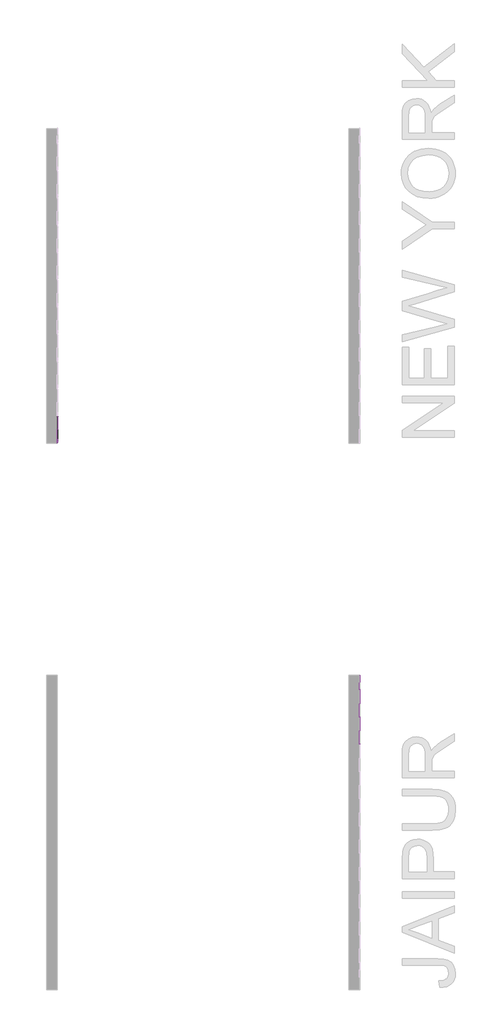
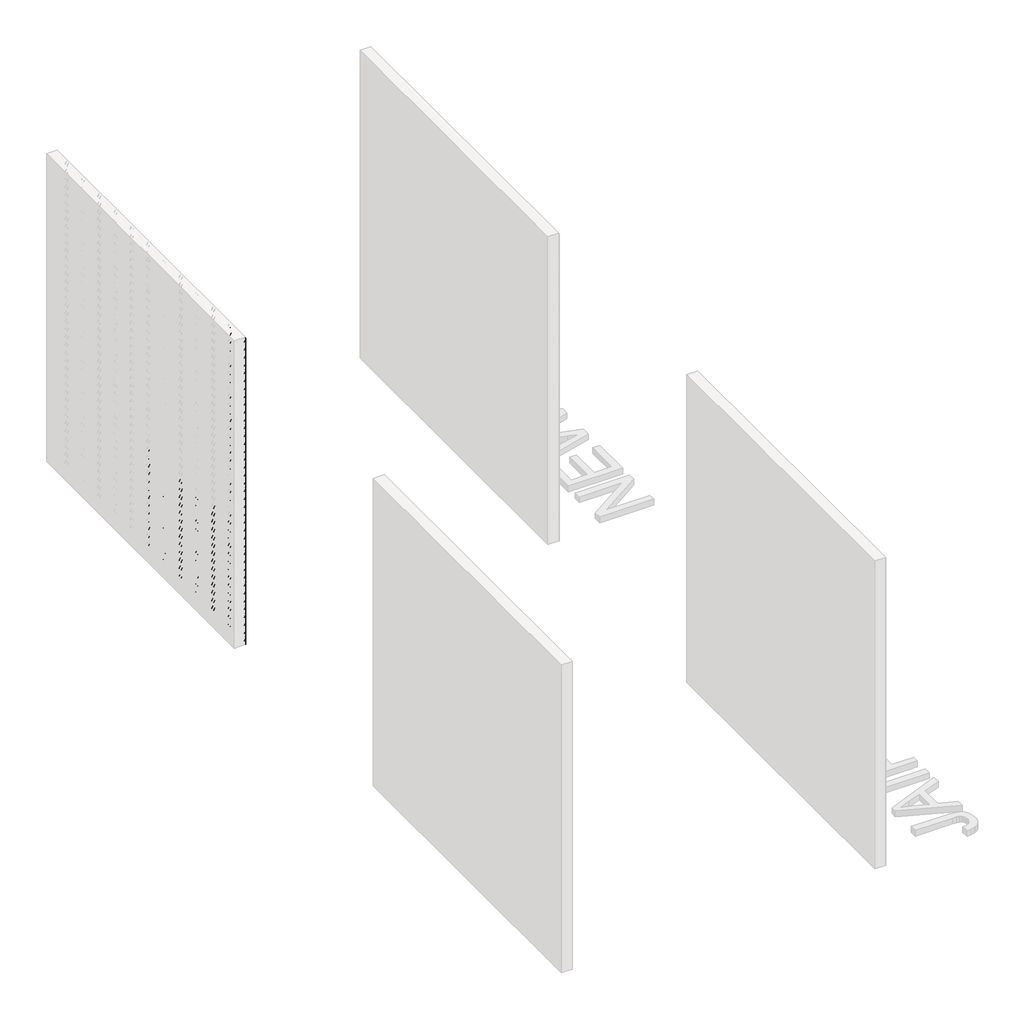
# One storey, part 18 of 45: 146 proxies.
"""IFC4 building model written with IfcOpenShell, lengths in millimetres."""

from ifc_helpers import new_model, si_unit, origin, place, context, project, spatial, transform, mapped, element, save
from components import generic_models_ab0f2c30, generic_models_acd2f2bb, generic_models_1527efce

model = new_model("IFC4")

# Units and contexts
model_context = context("Model", 3, world=origin())
ifc_project = project(units=[si_unit("LENGTHUNIT", "METRE", prefix="MILLI")], contexts=[model_context])

# Site, building, storey
site = spatial("IfcSite", under=ifc_project)
building = spatial("IfcBuilding", under=site)
storey = spatial("IfcBuildingStorey", under=building, Name="PORTOBELLO - SHOWROOM", Elevation=0.0)

# Proxies
placement = place(None, origin())
generic_models_shape = generic_models_ab0f2c30(model_context)
element("IfcBuildingElementProxy", 1, Name="PBSHOP - HORIZONTES JAIPUR 6,5X23 : JAIPUR", ObjectType="PBSHOP - HORIZONTES JAIPUR 6,5X23 : JAIPUR", at=placement, inside=storey, context=model_context, shape_type="MappedRepresentation", body=[
    mapped(generic_models_shape, transform((69111.8826867, 3443.9760255, 1759.5), x_axis=(0.0, 0.0, 1.0), y_axis=(0.0, -1.0, 0.0), z_axis=(1.0, 0.0, 0.0))),
])
element("IfcBuildingElementProxy", 2, Name="PBSHOP - HORIZONTES JAIPUR 6,5X23 : JAIPUR", ObjectType="PBSHOP - HORIZONTES JAIPUR 6,5X23 : JAIPUR", at=placement, inside=storey, context=model_context, shape_type="MappedRepresentation", body=[
    mapped(generic_models_shape, transform((69111.8826867, 3209.9760255, 1828.5), x_axis=(0.0, 0.0, 1.0), y_axis=(0.0, -1.0, 0.0), z_axis=(1.0, 0.0, 0.0))),
])
element("IfcBuildingElementProxy", 3, Name="PBSHOP - HORIZONTES JAIPUR 6,5X23 : JAIPUR", ObjectType="PBSHOP - HORIZONTES JAIPUR 6,5X23 : JAIPUR", at=placement, inside=storey, context=model_context, shape_type="MappedRepresentation", body=[
    mapped(generic_models_shape, transform((69111.8826867, 3443.9760255, 1828.5), x_axis=(0.0, 0.0, 1.0), y_axis=(0.0, -1.0, 0.0), z_axis=(1.0, 0.0, 0.0))),
])
element("IfcBuildingElementProxy", 4, Name="PBSHOP - HORIZONTES JAIPUR 6,5X23 : JAIPUR", ObjectType="PBSHOP - HORIZONTES JAIPUR 6,5X23 : JAIPUR", at=placement, inside=storey, context=model_context, shape_type="MappedRepresentation", body=[
    mapped(generic_models_shape, transform((69111.8826867, 3209.9760255, 1897.5), x_axis=(0.0, 0.0, 1.0), y_axis=(0.0, -1.0, 0.0), z_axis=(1.0, 0.0, 0.0))),
])
element("IfcBuildingElementProxy", 5, Name="PBSHOP - HORIZONTES JAIPUR 6,5X23 : JAIPUR", ObjectType="PBSHOP - HORIZONTES JAIPUR 6,5X23 : JAIPUR", at=placement, inside=storey, context=model_context, shape_type="MappedRepresentation", body=[
    mapped(generic_models_shape, transform((69111.8826867, 3443.9760255, 1897.5), x_axis=(0.0, 0.0, 1.0), y_axis=(0.0, -1.0, 0.0), z_axis=(1.0, 0.0, 0.0))),
])
element("IfcBuildingElementProxy", 6, Name="PBSHOP - HORIZONTES JAIPUR 6,5X23 : JAIPUR", ObjectType="PBSHOP - HORIZONTES JAIPUR 6,5X23 : JAIPUR", at=placement, inside=storey, context=model_context, shape_type="MappedRepresentation", body=[
    mapped(generic_models_shape, transform((69111.8826867, 3209.9760255, 1966.5), x_axis=(0.0, 0.0, 1.0), y_axis=(0.0, -1.0, 0.0), z_axis=(1.0, 0.0, 0.0))),
])
element("IfcBuildingElementProxy", 7, Name="PBSHOP - HORIZONTES JAIPUR 6,5X23 : JAIPUR", ObjectType="PBSHOP - HORIZONTES JAIPUR 6,5X23 : JAIPUR", at=placement, inside=storey, context=model_context, shape_type="MappedRepresentation", body=[
    mapped(generic_models_shape, transform((69111.8826867, 3443.9760255, 1966.5), x_axis=(0.0, 0.0, 1.0), y_axis=(0.0, -1.0, 0.0), z_axis=(1.0, 0.0, 0.0))),
])
element("IfcBuildingElementProxy", 8, Name="PBSHOP - HORIZONTES JAIPUR 6,5X23 : JAIPUR", ObjectType="PBSHOP - HORIZONTES JAIPUR 6,5X23 : JAIPUR", at=placement, inside=storey, context=model_context, shape_type="MappedRepresentation", body=[
    mapped(generic_models_shape, transform((69111.8826867, 3209.9760255, 2035.5), x_axis=(0.0, 0.0, 1.0), y_axis=(0.0, -1.0, 0.0), z_axis=(1.0, 0.0, 0.0))),
])
element("IfcBuildingElementProxy", 9, Name="PBSHOP - HORIZONTES JAIPUR 6,5X23 : JAIPUR", ObjectType="PBSHOP - HORIZONTES JAIPUR 6,5X23 : JAIPUR", at=placement, inside=storey, context=model_context, shape_type="MappedRepresentation", body=[
    mapped(generic_models_shape, transform((69111.8826867, 3443.9760255, 2035.5), x_axis=(0.0, 0.0, 1.0), y_axis=(0.0, -1.0, 0.0), z_axis=(1.0, 0.0, 0.0))),
])
element("IfcBuildingElementProxy", 10, Name="PBSHOP - HORIZONTES JAIPUR 6,5X23 : JAIPUR", ObjectType="PBSHOP - HORIZONTES JAIPUR 6,5X23 : JAIPUR", at=placement, inside=storey, context=model_context, shape_type="MappedRepresentation", body=[
    mapped(generic_models_shape, transform((69111.8826867, 3209.9760255, 2104.5), x_axis=(0.0, 0.0, 1.0), y_axis=(0.0, -1.0, 0.0), z_axis=(1.0, 0.0, 0.0))),
])
element("IfcBuildingElementProxy", 11, Name="PBSHOP - HORIZONTES JAIPUR 6,5X23 : JAIPUR", ObjectType="PBSHOP - HORIZONTES JAIPUR 6,5X23 : JAIPUR", at=placement, inside=storey, context=model_context, shape_type="MappedRepresentation", body=[
    mapped(generic_models_shape, transform((69111.8826867, 3443.9760255, 2104.5), x_axis=(0.0, 0.0, 1.0), y_axis=(0.0, -1.0, 0.0), z_axis=(1.0, 0.0, 0.0))),
])
element("IfcBuildingElementProxy", 12, Name="PBSHOP - HORIZONTES JAIPUR 6,5X23 : JAIPUR", ObjectType="PBSHOP - HORIZONTES JAIPUR 6,5X23 : JAIPUR", at=placement, inside=storey, context=model_context, shape_type="MappedRepresentation", body=[
    mapped(generic_models_shape, transform((69111.8826867, 3209.9760255, 2173.5), x_axis=(0.0, 0.0, 1.0), y_axis=(0.0, -1.0, 0.0), z_axis=(1.0, 0.0, 0.0))),
])
element("IfcBuildingElementProxy", 13, Name="PBSHOP - HORIZONTES JAIPUR 6,5X23 : JAIPUR", ObjectType="PBSHOP - HORIZONTES JAIPUR 6,5X23 : JAIPUR", at=placement, inside=storey, context=model_context, shape_type="MappedRepresentation", body=[
    mapped(generic_models_shape, transform((69111.8826867, 3443.9760255, 2173.5), x_axis=(0.0, 0.0, 1.0), y_axis=(0.0, -1.0, 0.0), z_axis=(1.0, 0.0, 0.0))),
])
element("IfcBuildingElementProxy", 14, Name="PBSHOP - HORIZONTES JAIPUR 6,5X23 : JAIPUR", ObjectType="PBSHOP - HORIZONTES JAIPUR 6,5X23 : JAIPUR", at=placement, inside=storey, context=model_context, shape_type="MappedRepresentation", body=[
    mapped(generic_models_shape, transform((69111.8826867, 3209.9760255, 2242.5), x_axis=(0.0, 0.0, 1.0), y_axis=(0.0, -1.0, 0.0), z_axis=(1.0, 0.0, 0.0))),
])
element("IfcBuildingElementProxy", 15, Name="PBSHOP - HORIZONTES JAIPUR 6,5X23 : JAIPUR", ObjectType="PBSHOP - HORIZONTES JAIPUR 6,5X23 : JAIPUR", at=placement, inside=storey, context=model_context, shape_type="MappedRepresentation", body=[
    mapped(generic_models_shape, transform((69111.8826867, 3443.9760255, 2242.5), x_axis=(0.0, 0.0, 1.0), y_axis=(0.0, -1.0, 0.0), z_axis=(1.0, 0.0, 0.0))),
])
element("IfcBuildingElementProxy", 16, Name="PBSHOP - HORIZONTES JAIPUR 6,5X23 : JAIPUR", ObjectType="PBSHOP - HORIZONTES JAIPUR 6,5X23 : JAIPUR", at=placement, inside=storey, context=model_context, shape_type="MappedRepresentation", body=[
    mapped(generic_models_shape, transform((69111.8826867, 3209.9760255, 2311.5), x_axis=(0.0, 0.0, 1.0), y_axis=(0.0, -1.0, 0.0), z_axis=(1.0, 0.0, 0.0))),
])
element("IfcBuildingElementProxy", 17, Name="PBSHOP - HORIZONTES JAIPUR 6,5X23 : JAIPUR", ObjectType="PBSHOP - HORIZONTES JAIPUR 6,5X23 : JAIPUR", at=placement, inside=storey, context=model_context, shape_type="MappedRepresentation", body=[
    mapped(generic_models_shape, transform((69111.8826867, 3443.9760255, 2311.5), x_axis=(0.0, 0.0, 1.0), y_axis=(0.0, -1.0, 0.0), z_axis=(1.0, 0.0, 0.0))),
])
element("IfcBuildingElementProxy", 18, Name="PBSHOP - HORIZONTES JAIPUR 6,5X23 : JAIPUR", ObjectType="PBSHOP - HORIZONTES JAIPUR 6,5X23 : JAIPUR", at=placement, inside=storey, context=model_context, shape_type="MappedRepresentation", body=[
    mapped(generic_models_shape, transform((69111.8826867, 3209.9760255, 2380.5), x_axis=(0.0, 0.0, 1.0), y_axis=(0.0, -1.0, 0.0), z_axis=(1.0, 0.0, 0.0))),
])
element("IfcBuildingElementProxy", 19, Name="PBSHOP - HORIZONTES JAIPUR 6,5X23 : JAIPUR", ObjectType="PBSHOP - HORIZONTES JAIPUR 6,5X23 : JAIPUR", at=placement, inside=storey, context=model_context, shape_type="MappedRepresentation", body=[
    mapped(generic_models_shape, transform((69111.8826867, 3443.9760255, 2380.5), x_axis=(0.0, 0.0, 1.0), y_axis=(0.0, -1.0, 0.0), z_axis=(1.0, 0.0, 0.0))),
])
element("IfcBuildingElementProxy", 20, Name="PBSHOP - HORIZONTES JAIPUR 6,5X23 : JAIPUR", ObjectType="PBSHOP - HORIZONTES JAIPUR 6,5X23 : JAIPUR", at=placement, inside=storey, context=model_context, shape_type="MappedRepresentation", body=[
    mapped(generic_models_shape, transform((69111.8826867, 3209.9760255, 2449.5), x_axis=(0.0, 0.0, 1.0), y_axis=(0.0, -1.0, 0.0), z_axis=(1.0, 0.0, 0.0))),
])
element("IfcBuildingElementProxy", 21, Name="PBSHOP - HORIZONTES JAIPUR 6,5X23 : JAIPUR", ObjectType="PBSHOP - HORIZONTES JAIPUR 6,5X23 : JAIPUR", at=placement, inside=storey, context=model_context, shape_type="MappedRepresentation", body=[
    mapped(generic_models_shape, transform((69111.8826867, 3443.9760255, 2449.5), x_axis=(0.0, 0.0, 1.0), y_axis=(0.0, -1.0, 0.0), z_axis=(1.0, 0.0, 0.0))),
])
element("IfcBuildingElementProxy", 22, Name="PBSHOP - HORIZONTES JAIPUR 6,5X23 : JAIPUR", ObjectType="PBSHOP - HORIZONTES JAIPUR 6,5X23 : JAIPUR", at=placement, inside=storey, context=model_context, shape_type="MappedRepresentation", body=[
    mapped(generic_models_shape, transform((69111.8826867, 3209.9760255, 2518.5), x_axis=(0.0, 0.0, 1.0), y_axis=(0.0, -1.0, 0.0), z_axis=(1.0, 0.0, 0.0))),
])
element("IfcBuildingElementProxy", 23, Name="PBSHOP - HORIZONTES JAIPUR 6,5X23 : JAIPUR", ObjectType="PBSHOP - HORIZONTES JAIPUR 6,5X23 : JAIPUR", at=placement, inside=storey, context=model_context, shape_type="MappedRepresentation", body=[
    mapped(generic_models_shape, transform((69111.8826867, 3443.9760255, 2518.5), x_axis=(0.0, 0.0, 1.0), y_axis=(0.0, -1.0, 0.0), z_axis=(1.0, 0.0, 0.0))),
])
element("IfcBuildingElementProxy", 24, Name="PBSHOP - HORIZONTES JAIPUR 6,5X23 : JAIPUR", ObjectType="PBSHOP - HORIZONTES JAIPUR 6,5X23 : JAIPUR", at=placement, inside=storey, context=model_context, shape_type="MappedRepresentation", body=[
    mapped(generic_models_shape, transform((69111.8826867, 3209.9760255, 2587.5), x_axis=(0.0, 0.0, 1.0), y_axis=(0.0, -1.0, 0.0), z_axis=(1.0, 0.0, 0.0))),
])
element("IfcBuildingElementProxy", 25, Name="PBSHOP - HORIZONTES JAIPUR 6,5X23 : JAIPUR", ObjectType="PBSHOP - HORIZONTES JAIPUR 6,5X23 : JAIPUR", at=placement, inside=storey, context=model_context, shape_type="MappedRepresentation", body=[
    mapped(generic_models_shape, transform((69111.8826867, 3443.9760255, 2587.5), x_axis=(0.0, 0.0, 1.0), y_axis=(0.0, -1.0, 0.0), z_axis=(1.0, 0.0, 0.0))),
])
element("IfcBuildingElementProxy", 26, Name="PBSHOP - HORIZONTES JAIPUR 6,5X23 : JAIPUR", ObjectType="PBSHOP - HORIZONTES JAIPUR 6,5X23 : JAIPUR", at=placement, inside=storey, context=model_context, shape_type="MappedRepresentation", body=[
    mapped(generic_models_shape, transform((69111.8826867, 3209.9760255, 2656.5), x_axis=(0.0, 0.0, 1.0), y_axis=(0.0, -1.0, 0.0), z_axis=(1.0, 0.0, 0.0))),
])
element("IfcBuildingElementProxy", 27, Name="PBSHOP - HORIZONTES JAIPUR 6,5X23 : JAIPUR", ObjectType="PBSHOP - HORIZONTES JAIPUR 6,5X23 : JAIPUR", at=placement, inside=storey, context=model_context, shape_type="MappedRepresentation", body=[
    mapped(generic_models_shape, transform((69111.8826867, 3443.9760255, 2656.5), x_axis=(0.0, 0.0, 1.0), y_axis=(0.0, -1.0, 0.0), z_axis=(1.0, 0.0, 0.0))),
])
generic_models_2_shape = generic_models_acd2f2bb(model_context)
element("IfcBuildingElementProxy", 28, Name="PBSHOP - HORIZONTES NEW YORK 6,5X23 : NEW YORK DECO", ObjectType="PBSHOP - HORIZONTES NEW YORK 6,5X23 : NEW YORK DECO", at=placement, inside=storey, context=model_context, shape_type="MappedRepresentation", body=[
    mapped(generic_models_2_shape, transform((66511.8826867, 5798.0036359, 34.5), x_axis=(0.0, 0.0, 1.0), y_axis=(0.0, -1.0, 0.0), z_axis=(1.0, 0.0, 0.0))),
])
element("IfcBuildingElementProxy", 29, Name="PBSHOP - HORIZONTES NEW YORK 6,5X23 : NEW YORK DECO", ObjectType="PBSHOP - HORIZONTES NEW YORK 6,5X23 : NEW YORK DECO", at=placement, inside=storey, context=model_context, shape_type="MappedRepresentation", body=[
    mapped(generic_models_2_shape, transform((66511.8826867, 6032.0036359, 34.5), x_axis=(0.0, 0.0, 1.0), y_axis=(0.0, -1.0, 0.0), z_axis=(1.0, 0.0, 0.0))),
])
element("IfcBuildingElementProxy", 30, Name="PBSHOP - HORIZONTES NEW YORK 6,5X23 : NEW YORK DECO", ObjectType="PBSHOP - HORIZONTES NEW YORK 6,5X23 : NEW YORK DECO", at=placement, inside=storey, context=model_context, shape_type="MappedRepresentation", body=[
    mapped(generic_models_2_shape, transform((66511.8826867, 6266.0036359, 34.5), x_axis=(0.0, 0.0, 1.0), y_axis=(0.0, -1.0, 0.0), z_axis=(1.0, 0.0, 0.0))),
])
element("IfcBuildingElementProxy", 31, Name="PBSHOP - HORIZONTES NEW YORK 6,5X23 : NEW YORK DECO", ObjectType="PBSHOP - HORIZONTES NEW YORK 6,5X23 : NEW YORK DECO", at=placement, inside=storey, context=model_context, shape_type="MappedRepresentation", body=[
    mapped(generic_models_2_shape, transform((66511.8826867, 6500.0036359, 34.5), x_axis=(0.0, 0.0, 1.0), y_axis=(0.0, -1.0, 0.0), z_axis=(1.0, 0.0, 0.0))),
])
element("IfcBuildingElementProxy", 32, Name="PBSHOP - HORIZONTES NEW YORK 6,5X23 : NEW YORK DECO", ObjectType="PBSHOP - HORIZONTES NEW YORK 6,5X23 : NEW YORK DECO", at=placement, inside=storey, context=model_context, shape_type="MappedRepresentation", body=[
    mapped(generic_models_2_shape, transform((66511.8826867, 6734.0036359, 34.5), x_axis=(0.0, 0.0, 1.0), y_axis=(0.0, -1.0, 0.0), z_axis=(1.0, 0.0, 0.0))),
])
element("IfcBuildingElementProxy", 33, Name="PBSHOP - HORIZONTES NEW YORK 6,5X23 : NEW YORK DECO", ObjectType="PBSHOP - HORIZONTES NEW YORK 6,5X23 : NEW YORK DECO", at=placement, inside=storey, context=model_context, shape_type="MappedRepresentation", body=[
    mapped(generic_models_2_shape, transform((66511.8826867, 6968.0036359, 34.5), x_axis=(0.0, 0.0, 1.0), y_axis=(0.0, -1.0, 0.0), z_axis=(1.0, 0.0, 0.0))),
])
element("IfcBuildingElementProxy", 34, Name="PBSHOP - HORIZONTES NEW YORK 6,5X23 : NEW YORK DECO", ObjectType="PBSHOP - HORIZONTES NEW YORK 6,5X23 : NEW YORK DECO", at=placement, inside=storey, context=model_context, shape_type="MappedRepresentation", body=[
    mapped(generic_models_2_shape, transform((66511.8826867, 5798.0036359, 103.5), x_axis=(0.0, 0.0, 1.0), y_axis=(0.0, -1.0, 0.0), z_axis=(1.0, 0.0, 0.0))),
])
element("IfcBuildingElementProxy", 35, Name="PBSHOP - HORIZONTES NEW YORK 6,5X23 : NEW YORK DECO", ObjectType="PBSHOP - HORIZONTES NEW YORK 6,5X23 : NEW YORK DECO", at=placement, inside=storey, context=model_context, shape_type="MappedRepresentation", body=[
    mapped(generic_models_2_shape, transform((66511.8826867, 6032.0036359, 103.5), x_axis=(0.0, 0.0, 1.0), y_axis=(0.0, -1.0, 0.0), z_axis=(1.0, 0.0, 0.0))),
])
element("IfcBuildingElementProxy", 36, Name="PBSHOP - HORIZONTES NEW YORK 6,5X23 : NEW YORK DECO", ObjectType="PBSHOP - HORIZONTES NEW YORK 6,5X23 : NEW YORK DECO", at=placement, inside=storey, context=model_context, shape_type="MappedRepresentation", body=[
    mapped(generic_models_2_shape, transform((66511.8826867, 6266.0036359, 103.5), x_axis=(0.0, 0.0, 1.0), y_axis=(0.0, -1.0, 0.0), z_axis=(1.0, 0.0, 0.0))),
])
element("IfcBuildingElementProxy", 37, Name="PBSHOP - HORIZONTES NEW YORK 6,5X23 : NEW YORK DECO", ObjectType="PBSHOP - HORIZONTES NEW YORK 6,5X23 : NEW YORK DECO", at=placement, inside=storey, context=model_context, shape_type="MappedRepresentation", body=[
    mapped(generic_models_2_shape, transform((66511.8826867, 6500.0036359, 103.5), x_axis=(0.0, 0.0, 1.0), y_axis=(0.0, -1.0, 0.0), z_axis=(1.0, 0.0, 0.0))),
])
element("IfcBuildingElementProxy", 38, Name="PBSHOP - HORIZONTES NEW YORK 6,5X23 : NEW YORK DECO", ObjectType="PBSHOP - HORIZONTES NEW YORK 6,5X23 : NEW YORK DECO", at=placement, inside=storey, context=model_context, shape_type="MappedRepresentation", body=[
    mapped(generic_models_2_shape, transform((66511.8826867, 6734.0036359, 103.5), x_axis=(0.0, 0.0, 1.0), y_axis=(0.0, -1.0, 0.0), z_axis=(1.0, 0.0, 0.0))),
])
element("IfcBuildingElementProxy", 39, Name="PBSHOP - HORIZONTES NEW YORK 6,5X23 : NEW YORK DECO", ObjectType="PBSHOP - HORIZONTES NEW YORK 6,5X23 : NEW YORK DECO", at=placement, inside=storey, context=model_context, shape_type="MappedRepresentation", body=[
    mapped(generic_models_2_shape, transform((66511.8826867, 6968.0036359, 103.5), x_axis=(0.0, 0.0, 1.0), y_axis=(0.0, -1.0, 0.0), z_axis=(1.0, 0.0, 0.0))),
])
element("IfcBuildingElementProxy", 40, Name="PBSHOP - HORIZONTES NEW YORK 6,5X23 : NEW YORK DECO", ObjectType="PBSHOP - HORIZONTES NEW YORK 6,5X23 : NEW YORK DECO", at=placement, inside=storey, context=model_context, shape_type="MappedRepresentation", body=[
    mapped(generic_models_2_shape, transform((66511.8826867, 5798.0036359, 172.5), x_axis=(0.0, 0.0, 1.0), y_axis=(0.0, -1.0, 0.0), z_axis=(1.0, 0.0, 0.0))),
])
element("IfcBuildingElementProxy", 41, Name="PBSHOP - HORIZONTES NEW YORK 6,5X23 : NEW YORK DECO", ObjectType="PBSHOP - HORIZONTES NEW YORK 6,5X23 : NEW YORK DECO", at=placement, inside=storey, context=model_context, shape_type="MappedRepresentation", body=[
    mapped(generic_models_2_shape, transform((66511.8826867, 6032.0036359, 172.5), x_axis=(0.0, 0.0, 1.0), y_axis=(0.0, -1.0, 0.0), z_axis=(1.0, 0.0, 0.0))),
])
element("IfcBuildingElementProxy", 42, Name="PBSHOP - HORIZONTES NEW YORK 6,5X23 : NEW YORK DECO", ObjectType="PBSHOP - HORIZONTES NEW YORK 6,5X23 : NEW YORK DECO", at=placement, inside=storey, context=model_context, shape_type="MappedRepresentation", body=[
    mapped(generic_models_2_shape, transform((66511.8826867, 6266.0036359, 172.5), x_axis=(0.0, 0.0, 1.0), y_axis=(0.0, -1.0, 0.0), z_axis=(1.0, 0.0, 0.0))),
])
element("IfcBuildingElementProxy", 43, Name="PBSHOP - HORIZONTES NEW YORK 6,5X23 : NEW YORK DECO", ObjectType="PBSHOP - HORIZONTES NEW YORK 6,5X23 : NEW YORK DECO", at=placement, inside=storey, context=model_context, shape_type="MappedRepresentation", body=[
    mapped(generic_models_2_shape, transform((66511.8826867, 6500.0036359, 172.5), x_axis=(0.0, 0.0, 1.0), y_axis=(0.0, -1.0, 0.0), z_axis=(1.0, 0.0, 0.0))),
])
element("IfcBuildingElementProxy", 44, Name="PBSHOP - HORIZONTES NEW YORK 6,5X23 : NEW YORK DECO", ObjectType="PBSHOP - HORIZONTES NEW YORK 6,5X23 : NEW YORK DECO", at=placement, inside=storey, context=model_context, shape_type="MappedRepresentation", body=[
    mapped(generic_models_2_shape, transform((66511.8826867, 6734.0036359, 172.5), x_axis=(0.0, 0.0, 1.0), y_axis=(0.0, -1.0, 0.0), z_axis=(1.0, 0.0, 0.0))),
])
element("IfcBuildingElementProxy", 45, Name="PBSHOP - HORIZONTES NEW YORK 6,5X23 : NEW YORK DECO", ObjectType="PBSHOP - HORIZONTES NEW YORK 6,5X23 : NEW YORK DECO", at=placement, inside=storey, context=model_context, shape_type="MappedRepresentation", body=[
    mapped(generic_models_2_shape, transform((66511.8826867, 6968.0036359, 172.5), x_axis=(0.0, 0.0, 1.0), y_axis=(0.0, -1.0, 0.0), z_axis=(1.0, 0.0, 0.0))),
])
element("IfcBuildingElementProxy", 46, Name="PBSHOP - HORIZONTES NEW YORK 6,5X23 : NEW YORK DECO", ObjectType="PBSHOP - HORIZONTES NEW YORK 6,5X23 : NEW YORK DECO", at=placement, inside=storey, context=model_context, shape_type="MappedRepresentation", body=[
    mapped(generic_models_2_shape, transform((66511.8826867, 5798.0036359, 241.5), x_axis=(0.0, 0.0, 1.0), y_axis=(0.0, -1.0, 0.0), z_axis=(1.0, 0.0, 0.0))),
])
element("IfcBuildingElementProxy", 47, Name="PBSHOP - HORIZONTES NEW YORK 6,5X23 : NEW YORK DECO", ObjectType="PBSHOP - HORIZONTES NEW YORK 6,5X23 : NEW YORK DECO", at=placement, inside=storey, context=model_context, shape_type="MappedRepresentation", body=[
    mapped(generic_models_2_shape, transform((66511.8826867, 6032.0036359, 241.5), x_axis=(0.0, 0.0, 1.0), y_axis=(0.0, -1.0, 0.0), z_axis=(1.0, 0.0, 0.0))),
])
element("IfcBuildingElementProxy", 48, Name="PBSHOP - HORIZONTES NEW YORK 6,5X23 : NEW YORK DECO", ObjectType="PBSHOP - HORIZONTES NEW YORK 6,5X23 : NEW YORK DECO", at=placement, inside=storey, context=model_context, shape_type="MappedRepresentation", body=[
    mapped(generic_models_2_shape, transform((66511.8826867, 6266.0036359, 241.5), x_axis=(0.0, 0.0, 1.0), y_axis=(0.0, -1.0, 0.0), z_axis=(1.0, 0.0, 0.0))),
])
element("IfcBuildingElementProxy", 49, Name="PBSHOP - HORIZONTES NEW YORK 6,5X23 : NEW YORK DECO", ObjectType="PBSHOP - HORIZONTES NEW YORK 6,5X23 : NEW YORK DECO", at=placement, inside=storey, context=model_context, shape_type="MappedRepresentation", body=[
    mapped(generic_models_2_shape, transform((66511.8826867, 6500.0036359, 241.5), x_axis=(0.0, 0.0, 1.0), y_axis=(0.0, -1.0, 0.0), z_axis=(1.0, 0.0, 0.0))),
])
element("IfcBuildingElementProxy", 50, Name="PBSHOP - HORIZONTES NEW YORK 6,5X23 : NEW YORK DECO", ObjectType="PBSHOP - HORIZONTES NEW YORK 6,5X23 : NEW YORK DECO", at=placement, inside=storey, context=model_context, shape_type="MappedRepresentation", body=[
    mapped(generic_models_2_shape, transform((66511.8826867, 6734.0036359, 241.5), x_axis=(0.0, 0.0, 1.0), y_axis=(0.0, -1.0, 0.0), z_axis=(1.0, 0.0, 0.0))),
])
element("IfcBuildingElementProxy", 51, Name="PBSHOP - HORIZONTES NEW YORK 6,5X23 : NEW YORK DECO", ObjectType="PBSHOP - HORIZONTES NEW YORK 6,5X23 : NEW YORK DECO", at=placement, inside=storey, context=model_context, shape_type="MappedRepresentation", body=[
    mapped(generic_models_2_shape, transform((66511.8826867, 6968.0036359, 241.5), x_axis=(0.0, 0.0, 1.0), y_axis=(0.0, -1.0, 0.0), z_axis=(1.0, 0.0, 0.0))),
])
element("IfcBuildingElementProxy", 52, Name="PBSHOP - HORIZONTES NEW YORK 6,5X23 : NEW YORK DECO", ObjectType="PBSHOP - HORIZONTES NEW YORK 6,5X23 : NEW YORK DECO", at=placement, inside=storey, context=model_context, shape_type="MappedRepresentation", body=[
    mapped(generic_models_2_shape, transform((66511.8826867, 5798.0036359, 310.5), x_axis=(0.0, 0.0, 1.0), y_axis=(0.0, -1.0, 0.0), z_axis=(1.0, 0.0, 0.0))),
])
element("IfcBuildingElementProxy", 53, Name="PBSHOP - HORIZONTES NEW YORK 6,5X23 : NEW YORK DECO", ObjectType="PBSHOP - HORIZONTES NEW YORK 6,5X23 : NEW YORK DECO", at=placement, inside=storey, context=model_context, shape_type="MappedRepresentation", body=[
    mapped(generic_models_2_shape, transform((66511.8826867, 6032.0036359, 310.5), x_axis=(0.0, 0.0, 1.0), y_axis=(0.0, -1.0, 0.0), z_axis=(1.0, 0.0, 0.0))),
])
element("IfcBuildingElementProxy", 54, Name="PBSHOP - HORIZONTES NEW YORK 6,5X23 : NEW YORK DECO", ObjectType="PBSHOP - HORIZONTES NEW YORK 6,5X23 : NEW YORK DECO", at=placement, inside=storey, context=model_context, shape_type="MappedRepresentation", body=[
    mapped(generic_models_2_shape, transform((66511.8826867, 6266.0036359, 310.5), x_axis=(0.0, 0.0, 1.0), y_axis=(0.0, -1.0, 0.0), z_axis=(1.0, 0.0, 0.0))),
])
element("IfcBuildingElementProxy", 55, Name="PBSHOP - HORIZONTES NEW YORK 6,5X23 : NEW YORK DECO", ObjectType="PBSHOP - HORIZONTES NEW YORK 6,5X23 : NEW YORK DECO", at=placement, inside=storey, context=model_context, shape_type="MappedRepresentation", body=[
    mapped(generic_models_2_shape, transform((66511.8826867, 6500.0036359, 310.5), x_axis=(0.0, 0.0, 1.0), y_axis=(0.0, -1.0, 0.0), z_axis=(1.0, 0.0, 0.0))),
])
element("IfcBuildingElementProxy", 56, Name="PBSHOP - HORIZONTES NEW YORK 6,5X23 : NEW YORK DECO", ObjectType="PBSHOP - HORIZONTES NEW YORK 6,5X23 : NEW YORK DECO", at=placement, inside=storey, context=model_context, shape_type="MappedRepresentation", body=[
    mapped(generic_models_2_shape, transform((66511.8826867, 6734.0036359, 310.5), x_axis=(0.0, 0.0, 1.0), y_axis=(0.0, -1.0, 0.0), z_axis=(1.0, 0.0, 0.0))),
])
element("IfcBuildingElementProxy", 57, Name="PBSHOP - HORIZONTES NEW YORK 6,5X23 : NEW YORK DECO", ObjectType="PBSHOP - HORIZONTES NEW YORK 6,5X23 : NEW YORK DECO", at=placement, inside=storey, context=model_context, shape_type="MappedRepresentation", body=[
    mapped(generic_models_2_shape, transform((66511.8826867, 6968.0036359, 310.5), x_axis=(0.0, 0.0, 1.0), y_axis=(0.0, -1.0, 0.0), z_axis=(1.0, 0.0, 0.0))),
])
element("IfcBuildingElementProxy", 58, Name="PBSHOP - HORIZONTES NEW YORK 6,5X23 : NEW YORK DECO", ObjectType="PBSHOP - HORIZONTES NEW YORK 6,5X23 : NEW YORK DECO", at=placement, inside=storey, context=model_context, shape_type="MappedRepresentation", body=[
    mapped(generic_models_2_shape, transform((66511.8826867, 5798.0036359, 379.5), x_axis=(0.0, 0.0, 1.0), y_axis=(0.0, -1.0, 0.0), z_axis=(1.0, 0.0, 0.0))),
])
element("IfcBuildingElementProxy", 59, Name="PBSHOP - HORIZONTES NEW YORK 6,5X23 : NEW YORK DECO", ObjectType="PBSHOP - HORIZONTES NEW YORK 6,5X23 : NEW YORK DECO", at=placement, inside=storey, context=model_context, shape_type="MappedRepresentation", body=[
    mapped(generic_models_2_shape, transform((66511.8826867, 6032.0036359, 379.5), x_axis=(0.0, 0.0, 1.0), y_axis=(0.0, -1.0, 0.0), z_axis=(1.0, 0.0, 0.0))),
])
element("IfcBuildingElementProxy", 60, Name="PBSHOP - HORIZONTES NEW YORK 6,5X23 : NEW YORK DECO", ObjectType="PBSHOP - HORIZONTES NEW YORK 6,5X23 : NEW YORK DECO", at=placement, inside=storey, context=model_context, shape_type="MappedRepresentation", body=[
    mapped(generic_models_2_shape, transform((66511.8826867, 6266.0036359, 379.5), x_axis=(0.0, 0.0, 1.0), y_axis=(0.0, -1.0, 0.0), z_axis=(1.0, 0.0, 0.0))),
])
element("IfcBuildingElementProxy", 61, Name="PBSHOP - HORIZONTES NEW YORK 6,5X23 : NEW YORK DECO", ObjectType="PBSHOP - HORIZONTES NEW YORK 6,5X23 : NEW YORK DECO", at=placement, inside=storey, context=model_context, shape_type="MappedRepresentation", body=[
    mapped(generic_models_2_shape, transform((66511.8826867, 6500.0036359, 379.5), x_axis=(0.0, 0.0, 1.0), y_axis=(0.0, -1.0, 0.0), z_axis=(1.0, 0.0, 0.0))),
])
element("IfcBuildingElementProxy", 62, Name="PBSHOP - HORIZONTES NEW YORK 6,5X23 : NEW YORK DECO", ObjectType="PBSHOP - HORIZONTES NEW YORK 6,5X23 : NEW YORK DECO", at=placement, inside=storey, context=model_context, shape_type="MappedRepresentation", body=[
    mapped(generic_models_2_shape, transform((66511.8826867, 6734.0036359, 379.5), x_axis=(0.0, 0.0, 1.0), y_axis=(0.0, -1.0, 0.0), z_axis=(1.0, 0.0, 0.0))),
])
element("IfcBuildingElementProxy", 63, Name="PBSHOP - HORIZONTES NEW YORK 6,5X23 : NEW YORK DECO", ObjectType="PBSHOP - HORIZONTES NEW YORK 6,5X23 : NEW YORK DECO", at=placement, inside=storey, context=model_context, shape_type="MappedRepresentation", body=[
    mapped(generic_models_2_shape, transform((66511.8826867, 6968.0036359, 379.5), x_axis=(0.0, 0.0, 1.0), y_axis=(0.0, -1.0, 0.0), z_axis=(1.0, 0.0, 0.0))),
])
element("IfcBuildingElementProxy", 64, Name="PBSHOP - HORIZONTES NEW YORK 6,5X23 : NEW YORK DECO", ObjectType="PBSHOP - HORIZONTES NEW YORK 6,5X23 : NEW YORK DECO", at=placement, inside=storey, context=model_context, shape_type="MappedRepresentation", body=[
    mapped(generic_models_2_shape, transform((66511.8826867, 5798.0036359, 448.5), x_axis=(0.0, 0.0, 1.0), y_axis=(0.0, -1.0, 0.0), z_axis=(1.0, 0.0, 0.0))),
])
element("IfcBuildingElementProxy", 65, Name="PBSHOP - HORIZONTES NEW YORK 6,5X23 : NEW YORK DECO", ObjectType="PBSHOP - HORIZONTES NEW YORK 6,5X23 : NEW YORK DECO", at=placement, inside=storey, context=model_context, shape_type="MappedRepresentation", body=[
    mapped(generic_models_2_shape, transform((66511.8826867, 6032.0036359, 448.5), x_axis=(0.0, 0.0, 1.0), y_axis=(0.0, -1.0, 0.0), z_axis=(1.0, 0.0, 0.0))),
])
element("IfcBuildingElementProxy", 66, Name="PBSHOP - HORIZONTES NEW YORK 6,5X23 : NEW YORK DECO", ObjectType="PBSHOP - HORIZONTES NEW YORK 6,5X23 : NEW YORK DECO", at=placement, inside=storey, context=model_context, shape_type="MappedRepresentation", body=[
    mapped(generic_models_2_shape, transform((66511.8826867, 6266.0036359, 448.5), x_axis=(0.0, 0.0, 1.0), y_axis=(0.0, -1.0, 0.0), z_axis=(1.0, 0.0, 0.0))),
])
element("IfcBuildingElementProxy", 67, Name="PBSHOP - HORIZONTES NEW YORK 6,5X23 : NEW YORK DECO", ObjectType="PBSHOP - HORIZONTES NEW YORK 6,5X23 : NEW YORK DECO", at=placement, inside=storey, context=model_context, shape_type="MappedRepresentation", body=[
    mapped(generic_models_2_shape, transform((66511.8826867, 6500.0036359, 448.5), x_axis=(0.0, 0.0, 1.0), y_axis=(0.0, -1.0, 0.0), z_axis=(1.0, 0.0, 0.0))),
])
element("IfcBuildingElementProxy", 68, Name="PBSHOP - HORIZONTES NEW YORK 6,5X23 : NEW YORK DECO", ObjectType="PBSHOP - HORIZONTES NEW YORK 6,5X23 : NEW YORK DECO", at=placement, inside=storey, context=model_context, shape_type="MappedRepresentation", body=[
    mapped(generic_models_2_shape, transform((66511.8826867, 6734.0036359, 448.5), x_axis=(0.0, 0.0, 1.0), y_axis=(0.0, -1.0, 0.0), z_axis=(1.0, 0.0, 0.0))),
])
element("IfcBuildingElementProxy", 69, Name="PBSHOP - HORIZONTES NEW YORK 6,5X23 : NEW YORK DECO", ObjectType="PBSHOP - HORIZONTES NEW YORK 6,5X23 : NEW YORK DECO", at=placement, inside=storey, context=model_context, shape_type="MappedRepresentation", body=[
    mapped(generic_models_2_shape, transform((66511.8826867, 6968.0036359, 448.5), x_axis=(0.0, 0.0, 1.0), y_axis=(0.0, -1.0, 0.0), z_axis=(1.0, 0.0, 0.0))),
])
element("IfcBuildingElementProxy", 70, Name="PBSHOP - HORIZONTES NEW YORK 6,5X23 : NEW YORK DECO", ObjectType="PBSHOP - HORIZONTES NEW YORK 6,5X23 : NEW YORK DECO", at=placement, inside=storey, context=model_context, shape_type="MappedRepresentation", body=[
    mapped(generic_models_2_shape, transform((66511.8826867, 5798.0036359, 517.5), x_axis=(0.0, 0.0, 1.0), y_axis=(0.0, -1.0, 0.0), z_axis=(1.0, 0.0, 0.0))),
])
element("IfcBuildingElementProxy", 71, Name="PBSHOP - HORIZONTES NEW YORK 6,5X23 : NEW YORK DECO", ObjectType="PBSHOP - HORIZONTES NEW YORK 6,5X23 : NEW YORK DECO", at=placement, inside=storey, context=model_context, shape_type="MappedRepresentation", body=[
    mapped(generic_models_2_shape, transform((66511.8826867, 6032.0036359, 517.5), x_axis=(0.0, 0.0, 1.0), y_axis=(0.0, -1.0, 0.0), z_axis=(1.0, 0.0, 0.0))),
])
element("IfcBuildingElementProxy", 72, Name="PBSHOP - HORIZONTES NEW YORK 6,5X23 : NEW YORK DECO", ObjectType="PBSHOP - HORIZONTES NEW YORK 6,5X23 : NEW YORK DECO", at=placement, inside=storey, context=model_context, shape_type="MappedRepresentation", body=[
    mapped(generic_models_2_shape, transform((66511.8826867, 6266.0036359, 517.5), x_axis=(0.0, 0.0, 1.0), y_axis=(0.0, -1.0, 0.0), z_axis=(1.0, 0.0, 0.0))),
])
element("IfcBuildingElementProxy", 73, Name="PBSHOP - HORIZONTES NEW YORK 6,5X23 : NEW YORK DECO", ObjectType="PBSHOP - HORIZONTES NEW YORK 6,5X23 : NEW YORK DECO", at=placement, inside=storey, context=model_context, shape_type="MappedRepresentation", body=[
    mapped(generic_models_2_shape, transform((66511.8826867, 6500.0036359, 517.5), x_axis=(0.0, 0.0, 1.0), y_axis=(0.0, -1.0, 0.0), z_axis=(1.0, 0.0, 0.0))),
])
element("IfcBuildingElementProxy", 74, Name="PBSHOP - HORIZONTES NEW YORK 6,5X23 : NEW YORK DECO", ObjectType="PBSHOP - HORIZONTES NEW YORK 6,5X23 : NEW YORK DECO", at=placement, inside=storey, context=model_context, shape_type="MappedRepresentation", body=[
    mapped(generic_models_2_shape, transform((66511.8826867, 6734.0036359, 517.5), x_axis=(0.0, 0.0, 1.0), y_axis=(0.0, -1.0, 0.0), z_axis=(1.0, 0.0, 0.0))),
])
element("IfcBuildingElementProxy", 75, Name="PBSHOP - HORIZONTES NEW YORK 6,5X23 : NEW YORK DECO", ObjectType="PBSHOP - HORIZONTES NEW YORK 6,5X23 : NEW YORK DECO", at=placement, inside=storey, context=model_context, shape_type="MappedRepresentation", body=[
    mapped(generic_models_2_shape, transform((66511.8826867, 6968.0036359, 517.5), x_axis=(0.0, 0.0, 1.0), y_axis=(0.0, -1.0, 0.0), z_axis=(1.0, 0.0, 0.0))),
])
element("IfcBuildingElementProxy", 76, Name="PBSHOP - HORIZONTES NEW YORK 6,5X23 : NEW YORK DECO", ObjectType="PBSHOP - HORIZONTES NEW YORK 6,5X23 : NEW YORK DECO", at=placement, inside=storey, context=model_context, shape_type="MappedRepresentation", body=[
    mapped(generic_models_2_shape, transform((66511.8826867, 5798.0036359, 586.5), x_axis=(0.0, 0.0, 1.0), y_axis=(0.0, -1.0, 0.0), z_axis=(1.0, 0.0, 0.0))),
])
element("IfcBuildingElementProxy", 77, Name="PBSHOP - HORIZONTES NEW YORK 6,5X23 : NEW YORK DECO", ObjectType="PBSHOP - HORIZONTES NEW YORK 6,5X23 : NEW YORK DECO", at=placement, inside=storey, context=model_context, shape_type="MappedRepresentation", body=[
    mapped(generic_models_2_shape, transform((66511.8826867, 6032.0036359, 586.5), x_axis=(0.0, 0.0, 1.0), y_axis=(0.0, -1.0, 0.0), z_axis=(1.0, 0.0, 0.0))),
])
element("IfcBuildingElementProxy", 78, Name="PBSHOP - HORIZONTES NEW YORK 6,5X23 : NEW YORK DECO", ObjectType="PBSHOP - HORIZONTES NEW YORK 6,5X23 : NEW YORK DECO", at=placement, inside=storey, context=model_context, shape_type="MappedRepresentation", body=[
    mapped(generic_models_2_shape, transform((66511.8826867, 6266.0036359, 586.5), x_axis=(0.0, 0.0, 1.0), y_axis=(0.0, -1.0, 0.0), z_axis=(1.0, 0.0, 0.0))),
])
element("IfcBuildingElementProxy", 79, Name="PBSHOP - HORIZONTES NEW YORK 6,5X23 : NEW YORK DECO", ObjectType="PBSHOP - HORIZONTES NEW YORK 6,5X23 : NEW YORK DECO", at=placement, inside=storey, context=model_context, shape_type="MappedRepresentation", body=[
    mapped(generic_models_2_shape, transform((66511.8826867, 6500.0036359, 586.5), x_axis=(0.0, 0.0, 1.0), y_axis=(0.0, -1.0, 0.0), z_axis=(1.0, 0.0, 0.0))),
])
element("IfcBuildingElementProxy", 80, Name="PBSHOP - HORIZONTES NEW YORK 6,5X23 : NEW YORK DECO", ObjectType="PBSHOP - HORIZONTES NEW YORK 6,5X23 : NEW YORK DECO", at=placement, inside=storey, context=model_context, shape_type="MappedRepresentation", body=[
    mapped(generic_models_2_shape, transform((66511.8826867, 6734.0036359, 586.5), x_axis=(0.0, 0.0, 1.0), y_axis=(0.0, -1.0, 0.0), z_axis=(1.0, 0.0, 0.0))),
])
element("IfcBuildingElementProxy", 81, Name="PBSHOP - HORIZONTES NEW YORK 6,5X23 : NEW YORK DECO", ObjectType="PBSHOP - HORIZONTES NEW YORK 6,5X23 : NEW YORK DECO", at=placement, inside=storey, context=model_context, shape_type="MappedRepresentation", body=[
    mapped(generic_models_2_shape, transform((66511.8826867, 6968.0036359, 586.5), x_axis=(0.0, 0.0, 1.0), y_axis=(0.0, -1.0, 0.0), z_axis=(1.0, 0.0, 0.0))),
])
element("IfcBuildingElementProxy", 82, Name="PBSHOP - HORIZONTES NEW YORK 6,5X23 : NEW YORK DECO", ObjectType="PBSHOP - HORIZONTES NEW YORK 6,5X23 : NEW YORK DECO", at=placement, inside=storey, context=model_context, shape_type="MappedRepresentation", body=[
    mapped(generic_models_2_shape, transform((66511.8826867, 5798.0036359, 655.5), x_axis=(0.0, 0.0, 1.0), y_axis=(0.0, -1.0, 0.0), z_axis=(1.0, 0.0, 0.0))),
])
element("IfcBuildingElementProxy", 83, Name="PBSHOP - HORIZONTES NEW YORK 6,5X23 : NEW YORK DECO", ObjectType="PBSHOP - HORIZONTES NEW YORK 6,5X23 : NEW YORK DECO", at=placement, inside=storey, context=model_context, shape_type="MappedRepresentation", body=[
    mapped(generic_models_2_shape, transform((66511.8826867, 6032.0036359, 655.5), x_axis=(0.0, 0.0, 1.0), y_axis=(0.0, -1.0, 0.0), z_axis=(1.0, 0.0, 0.0))),
])
element("IfcBuildingElementProxy", 84, Name="PBSHOP - HORIZONTES NEW YORK 6,5X23 : NEW YORK DECO", ObjectType="PBSHOP - HORIZONTES NEW YORK 6,5X23 : NEW YORK DECO", at=placement, inside=storey, context=model_context, shape_type="MappedRepresentation", body=[
    mapped(generic_models_2_shape, transform((66511.8826867, 6266.0036359, 655.5), x_axis=(0.0, 0.0, 1.0), y_axis=(0.0, -1.0, 0.0), z_axis=(1.0, 0.0, 0.0))),
])
element("IfcBuildingElementProxy", 85, Name="PBSHOP - HORIZONTES NEW YORK 6,5X23 : NEW YORK DECO", ObjectType="PBSHOP - HORIZONTES NEW YORK 6,5X23 : NEW YORK DECO", at=placement, inside=storey, context=model_context, shape_type="MappedRepresentation", body=[
    mapped(generic_models_2_shape, transform((66511.8826867, 6500.0036359, 655.5), x_axis=(0.0, 0.0, 1.0), y_axis=(0.0, -1.0, 0.0), z_axis=(1.0, 0.0, 0.0))),
])
element("IfcBuildingElementProxy", 86, Name="PBSHOP - HORIZONTES NEW YORK 6,5X23 : NEW YORK DECO", ObjectType="PBSHOP - HORIZONTES NEW YORK 6,5X23 : NEW YORK DECO", at=placement, inside=storey, context=model_context, shape_type="MappedRepresentation", body=[
    mapped(generic_models_2_shape, transform((66511.8826867, 6734.0036359, 655.5), x_axis=(0.0, 0.0, 1.0), y_axis=(0.0, -1.0, 0.0), z_axis=(1.0, 0.0, 0.0))),
])
element("IfcBuildingElementProxy", 87, Name="PBSHOP - HORIZONTES NEW YORK 6,5X23 : NEW YORK DECO", ObjectType="PBSHOP - HORIZONTES NEW YORK 6,5X23 : NEW YORK DECO", at=placement, inside=storey, context=model_context, shape_type="MappedRepresentation", body=[
    mapped(generic_models_2_shape, transform((66511.8826867, 6968.0036359, 655.5), x_axis=(0.0, 0.0, 1.0), y_axis=(0.0, -1.0, 0.0), z_axis=(1.0, 0.0, 0.0))),
])
element("IfcBuildingElementProxy", 88, Name="PBSHOP - HORIZONTES NEW YORK 6,5X23 : NEW YORK DECO", ObjectType="PBSHOP - HORIZONTES NEW YORK 6,5X23 : NEW YORK DECO", at=placement, inside=storey, context=model_context, shape_type="MappedRepresentation", body=[
    mapped(generic_models_2_shape, transform((66511.8826867, 5798.0036359, 724.5), x_axis=(0.0, 0.0, 1.0), y_axis=(0.0, -1.0, 0.0), z_axis=(1.0, 0.0, 0.0))),
])
element("IfcBuildingElementProxy", 89, Name="PBSHOP - HORIZONTES NEW YORK 6,5X23 : NEW YORK DECO", ObjectType="PBSHOP - HORIZONTES NEW YORK 6,5X23 : NEW YORK DECO", at=placement, inside=storey, context=model_context, shape_type="MappedRepresentation", body=[
    mapped(generic_models_2_shape, transform((66511.8826867, 6032.0036359, 724.5), x_axis=(0.0, 0.0, 1.0), y_axis=(0.0, -1.0, 0.0), z_axis=(1.0, 0.0, 0.0))),
])
element("IfcBuildingElementProxy", 90, Name="PBSHOP - HORIZONTES NEW YORK 6,5X23 : NEW YORK DECO", ObjectType="PBSHOP - HORIZONTES NEW YORK 6,5X23 : NEW YORK DECO", at=placement, inside=storey, context=model_context, shape_type="MappedRepresentation", body=[
    mapped(generic_models_2_shape, transform((66511.8826867, 6266.0036359, 724.5), x_axis=(0.0, 0.0, 1.0), y_axis=(0.0, -1.0, 0.0), z_axis=(1.0, 0.0, 0.0))),
])
element("IfcBuildingElementProxy", 91, Name="PBSHOP - HORIZONTES NEW YORK 6,5X23 : NEW YORK DECO", ObjectType="PBSHOP - HORIZONTES NEW YORK 6,5X23 : NEW YORK DECO", at=placement, inside=storey, context=model_context, shape_type="MappedRepresentation", body=[
    mapped(generic_models_2_shape, transform((66511.8826867, 6500.0036359, 724.5), x_axis=(0.0, 0.0, 1.0), y_axis=(0.0, -1.0, 0.0), z_axis=(1.0, 0.0, 0.0))),
])
element("IfcBuildingElementProxy", 92, Name="PBSHOP - HORIZONTES NEW YORK 6,5X23 : NEW YORK DECO", ObjectType="PBSHOP - HORIZONTES NEW YORK 6,5X23 : NEW YORK DECO", at=placement, inside=storey, context=model_context, shape_type="MappedRepresentation", body=[
    mapped(generic_models_2_shape, transform((66511.8826867, 6734.0036359, 724.5), x_axis=(0.0, 0.0, 1.0), y_axis=(0.0, -1.0, 0.0), z_axis=(1.0, 0.0, 0.0))),
])
element("IfcBuildingElementProxy", 93, Name="PBSHOP - HORIZONTES NEW YORK 6,5X23 : NEW YORK DECO", ObjectType="PBSHOP - HORIZONTES NEW YORK 6,5X23 : NEW YORK DECO", at=placement, inside=storey, context=model_context, shape_type="MappedRepresentation", body=[
    mapped(generic_models_2_shape, transform((66511.8826867, 6968.0036359, 724.5), x_axis=(0.0, 0.0, 1.0), y_axis=(0.0, -1.0, 0.0), z_axis=(1.0, 0.0, 0.0))),
])
element("IfcBuildingElementProxy", 94, Name="PBSHOP - HORIZONTES NEW YORK 6,5X23 : NEW YORK DECO", ObjectType="PBSHOP - HORIZONTES NEW YORK 6,5X23 : NEW YORK DECO", at=placement, inside=storey, context=model_context, shape_type="MappedRepresentation", body=[
    mapped(generic_models_2_shape, transform((66511.8826867, 5798.0036359, 793.5), x_axis=(0.0, 0.0, 1.0), y_axis=(0.0, -1.0, 0.0), z_axis=(1.0, 0.0, 0.0))),
])
element("IfcBuildingElementProxy", 95, Name="PBSHOP - HORIZONTES NEW YORK 6,5X23 : NEW YORK DECO", ObjectType="PBSHOP - HORIZONTES NEW YORK 6,5X23 : NEW YORK DECO", at=placement, inside=storey, context=model_context, shape_type="MappedRepresentation", body=[
    mapped(generic_models_2_shape, transform((66511.8826867, 6032.0036359, 793.5), x_axis=(0.0, 0.0, 1.0), y_axis=(0.0, -1.0, 0.0), z_axis=(1.0, 0.0, 0.0))),
])
element("IfcBuildingElementProxy", 96, Name="PBSHOP - HORIZONTES NEW YORK 6,5X23 : NEW YORK DECO", ObjectType="PBSHOP - HORIZONTES NEW YORK 6,5X23 : NEW YORK DECO", at=placement, inside=storey, context=model_context, shape_type="MappedRepresentation", body=[
    mapped(generic_models_2_shape, transform((66511.8826867, 6266.0036359, 793.5), x_axis=(0.0, 0.0, 1.0), y_axis=(0.0, -1.0, 0.0), z_axis=(1.0, 0.0, 0.0))),
])
element("IfcBuildingElementProxy", 97, Name="PBSHOP - HORIZONTES NEW YORK 6,5X23 : NEW YORK DECO", ObjectType="PBSHOP - HORIZONTES NEW YORK 6,5X23 : NEW YORK DECO", at=placement, inside=storey, context=model_context, shape_type="MappedRepresentation", body=[
    mapped(generic_models_2_shape, transform((66511.8826867, 6500.0036359, 793.5), x_axis=(0.0, 0.0, 1.0), y_axis=(0.0, -1.0, 0.0), z_axis=(1.0, 0.0, 0.0))),
])
element("IfcBuildingElementProxy", 98, Name="PBSHOP - HORIZONTES NEW YORK 6,5X23 : NEW YORK DECO", ObjectType="PBSHOP - HORIZONTES NEW YORK 6,5X23 : NEW YORK DECO", at=placement, inside=storey, context=model_context, shape_type="MappedRepresentation", body=[
    mapped(generic_models_2_shape, transform((66511.8826867, 6734.0036359, 793.5), x_axis=(0.0, 0.0, 1.0), y_axis=(0.0, -1.0, 0.0), z_axis=(1.0, 0.0, 0.0))),
])
element("IfcBuildingElementProxy", 99, Name="PBSHOP - HORIZONTES NEW YORK 6,5X23 : NEW YORK DECO", ObjectType="PBSHOP - HORIZONTES NEW YORK 6,5X23 : NEW YORK DECO", at=placement, inside=storey, context=model_context, shape_type="MappedRepresentation", body=[
    mapped(generic_models_2_shape, transform((66511.8826867, 6968.0036359, 793.5), x_axis=(0.0, 0.0, 1.0), y_axis=(0.0, -1.0, 0.0), z_axis=(1.0, 0.0, 0.0))),
])
element("IfcBuildingElementProxy", 100, Name="PBSHOP - HORIZONTES NEW YORK 6,5X23 : NEW YORK DECO", ObjectType="PBSHOP - HORIZONTES NEW YORK 6,5X23 : NEW YORK DECO", at=placement, inside=storey, context=model_context, shape_type="MappedRepresentation", body=[
    mapped(generic_models_2_shape, transform((66511.8826867, 5798.0036359, 862.5), x_axis=(0.0, 0.0, 1.0), y_axis=(0.0, -1.0, 0.0), z_axis=(1.0, 0.0, 0.0))),
])
element("IfcBuildingElementProxy", 101, Name="PBSHOP - HORIZONTES NEW YORK 6,5X23 : NEW YORK DECO", ObjectType="PBSHOP - HORIZONTES NEW YORK 6,5X23 : NEW YORK DECO", at=placement, inside=storey, context=model_context, shape_type="MappedRepresentation", body=[
    mapped(generic_models_2_shape, transform((66511.8826867, 6032.0036359, 862.5), x_axis=(0.0, 0.0, 1.0), y_axis=(0.0, -1.0, 0.0), z_axis=(1.0, 0.0, 0.0))),
])
element("IfcBuildingElementProxy", 102, Name="PBSHOP - HORIZONTES NEW YORK 6,5X23 : NEW YORK DECO", ObjectType="PBSHOP - HORIZONTES NEW YORK 6,5X23 : NEW YORK DECO", at=placement, inside=storey, context=model_context, shape_type="MappedRepresentation", body=[
    mapped(generic_models_2_shape, transform((66511.8826867, 6266.0036359, 862.5), x_axis=(0.0, 0.0, 1.0), y_axis=(0.0, -1.0, 0.0), z_axis=(1.0, 0.0, 0.0))),
])
element("IfcBuildingElementProxy", 103, Name="PBSHOP - HORIZONTES NEW YORK 6,5X23 : NEW YORK DECO", ObjectType="PBSHOP - HORIZONTES NEW YORK 6,5X23 : NEW YORK DECO", at=placement, inside=storey, context=model_context, shape_type="MappedRepresentation", body=[
    mapped(generic_models_2_shape, transform((66511.8826867, 6500.0036359, 862.5), x_axis=(0.0, 0.0, 1.0), y_axis=(0.0, -1.0, 0.0), z_axis=(1.0, 0.0, 0.0))),
])
element("IfcBuildingElementProxy", 104, Name="PBSHOP - HORIZONTES NEW YORK 6,5X23 : NEW YORK DECO", ObjectType="PBSHOP - HORIZONTES NEW YORK 6,5X23 : NEW YORK DECO", at=placement, inside=storey, context=model_context, shape_type="MappedRepresentation", body=[
    mapped(generic_models_2_shape, transform((66511.8826867, 6734.0036359, 862.5), x_axis=(0.0, 0.0, 1.0), y_axis=(0.0, -1.0, 0.0), z_axis=(1.0, 0.0, 0.0))),
])
element("IfcBuildingElementProxy", 105, Name="PBSHOP - HORIZONTES NEW YORK 6,5X23 : NEW YORK DECO", ObjectType="PBSHOP - HORIZONTES NEW YORK 6,5X23 : NEW YORK DECO", at=placement, inside=storey, context=model_context, shape_type="MappedRepresentation", body=[
    mapped(generic_models_2_shape, transform((66511.8826867, 6968.0036359, 862.5), x_axis=(0.0, 0.0, 1.0), y_axis=(0.0, -1.0, 0.0), z_axis=(1.0, 0.0, 0.0))),
])
element("IfcBuildingElementProxy", 106, Name="PBSHOP - HORIZONTES NEW YORK 6,5X23 : NEW YORK DECO", ObjectType="PBSHOP - HORIZONTES NEW YORK 6,5X23 : NEW YORK DECO", at=placement, inside=storey, context=model_context, shape_type="MappedRepresentation", body=[
    mapped(generic_models_2_shape, transform((66511.8826867, 5798.0036359, 931.5), x_axis=(0.0, 0.0, 1.0), y_axis=(0.0, -1.0, 0.0), z_axis=(1.0, 0.0, 0.0))),
])
element("IfcBuildingElementProxy", 107, Name="PBSHOP - HORIZONTES NEW YORK 6,5X23 : NEW YORK DECO", ObjectType="PBSHOP - HORIZONTES NEW YORK 6,5X23 : NEW YORK DECO", at=placement, inside=storey, context=model_context, shape_type="MappedRepresentation", body=[
    mapped(generic_models_2_shape, transform((66511.8826867, 6032.0036359, 931.5), x_axis=(0.0, 0.0, 1.0), y_axis=(0.0, -1.0, 0.0), z_axis=(1.0, 0.0, 0.0))),
])
element("IfcBuildingElementProxy", 108, Name="PBSHOP - HORIZONTES NEW YORK 6,5X23 : NEW YORK DECO", ObjectType="PBSHOP - HORIZONTES NEW YORK 6,5X23 : NEW YORK DECO", at=placement, inside=storey, context=model_context, shape_type="MappedRepresentation", body=[
    mapped(generic_models_2_shape, transform((66511.8826867, 5798.0036359, 1000.5), x_axis=(0.0, 0.0, 1.0), y_axis=(0.0, -1.0, 0.0), z_axis=(1.0, 0.0, 0.0))),
])
element("IfcBuildingElementProxy", 109, Name="PBSHOP - HORIZONTES NEW YORK 6,5X23 : NEW YORK DECO", ObjectType="PBSHOP - HORIZONTES NEW YORK 6,5X23 : NEW YORK DECO", at=placement, inside=storey, context=model_context, shape_type="MappedRepresentation", body=[
    mapped(generic_models_2_shape, transform((66511.8826867, 5798.0036359, 1069.5), x_axis=(0.0, 0.0, 1.0), y_axis=(0.0, -1.0, 0.0), z_axis=(1.0, 0.0, 0.0))),
])
element("IfcBuildingElementProxy", 110, Name="PBSHOP - HORIZONTES NEW YORK 6,5X23 : NEW YORK DECO", ObjectType="PBSHOP - HORIZONTES NEW YORK 6,5X23 : NEW YORK DECO", at=placement, inside=storey, context=model_context, shape_type="MappedRepresentation", body=[
    mapped(generic_models_2_shape, transform((66511.8826867, 5798.0036359, 1138.5), x_axis=(0.0, 0.0, 1.0), y_axis=(0.0, -1.0, 0.0), z_axis=(1.0, 0.0, 0.0))),
])
element("IfcBuildingElementProxy", 111, Name="PBSHOP - HORIZONTES NEW YORK 6,5X23 : NEW YORK DECO", ObjectType="PBSHOP - HORIZONTES NEW YORK 6,5X23 : NEW YORK DECO", at=placement, inside=storey, context=model_context, shape_type="MappedRepresentation", body=[
    mapped(generic_models_2_shape, transform((66511.8826867, 5798.0036359, 1207.5), x_axis=(0.0, 0.0, 1.0), y_axis=(0.0, -1.0, 0.0), z_axis=(1.0, 0.0, 0.0))),
])
element("IfcBuildingElementProxy", 112, Name="PBSHOP - HORIZONTES NEW YORK 6,5X23 : NEW YORK DECO", ObjectType="PBSHOP - HORIZONTES NEW YORK 6,5X23 : NEW YORK DECO", at=placement, inside=storey, context=model_context, shape_type="MappedRepresentation", body=[
    mapped(generic_models_2_shape, transform((66511.8826867, 5798.0036359, 1276.5), x_axis=(0.0, 0.0, 1.0), y_axis=(0.0, -1.0, 0.0), z_axis=(1.0, 0.0, 0.0))),
])
element("IfcBuildingElementProxy", 113, Name="PBSHOP - HORIZONTES NEW YORK 6,5X23 : NEW YORK DECO", ObjectType="PBSHOP - HORIZONTES NEW YORK 6,5X23 : NEW YORK DECO", at=placement, inside=storey, context=model_context, shape_type="MappedRepresentation", body=[
    mapped(generic_models_2_shape, transform((66511.8826867, 5798.0036359, 1345.5), x_axis=(0.0, 0.0, 1.0), y_axis=(0.0, -1.0, 0.0), z_axis=(1.0, 0.0, 0.0))),
])
element("IfcBuildingElementProxy", 114, Name="PBSHOP - HORIZONTES NEW YORK 6,5X23 : NEW YORK DECO", ObjectType="PBSHOP - HORIZONTES NEW YORK 6,5X23 : NEW YORK DECO", at=placement, inside=storey, context=model_context, shape_type="MappedRepresentation", body=[
    mapped(generic_models_2_shape, transform((66511.8826867, 5798.0036359, 1414.5), x_axis=(0.0, 0.0, 1.0), y_axis=(0.0, -1.0, 0.0), z_axis=(1.0, 0.0, 0.0))),
])
element("IfcBuildingElementProxy", 115, Name="PBSHOP - HORIZONTES NEW YORK 6,5X23 : NEW YORK DECO", ObjectType="PBSHOP - HORIZONTES NEW YORK 6,5X23 : NEW YORK DECO", at=placement, inside=storey, context=model_context, shape_type="MappedRepresentation", body=[
    mapped(generic_models_2_shape, transform((66511.8826867, 5798.0036359, 1483.5), x_axis=(0.0, 0.0, 1.0), y_axis=(0.0, -1.0, 0.0), z_axis=(1.0, 0.0, 0.0))),
])
element("IfcBuildingElementProxy", 116, Name="PBSHOP - HORIZONTES NEW YORK 6,5X23 : NEW YORK DECO", ObjectType="PBSHOP - HORIZONTES NEW YORK 6,5X23 : NEW YORK DECO", at=placement, inside=storey, context=model_context, shape_type="MappedRepresentation", body=[
    mapped(generic_models_2_shape, transform((66511.8826867, 5798.0036359, 1552.5), x_axis=(0.0, 0.0, 1.0), y_axis=(0.0, -1.0, 0.0), z_axis=(1.0, 0.0, 0.0))),
])
element("IfcBuildingElementProxy", 117, Name="PBSHOP - HORIZONTES NEW YORK 6,5X23 : NEW YORK DECO", ObjectType="PBSHOP - HORIZONTES NEW YORK 6,5X23 : NEW YORK DECO", at=placement, inside=storey, context=model_context, shape_type="MappedRepresentation", body=[
    mapped(generic_models_2_shape, transform((66511.8826867, 5798.0036359, 1621.5), x_axis=(0.0, 0.0, 1.0), y_axis=(0.0, -1.0, 0.0), z_axis=(1.0, 0.0, 0.0))),
])
element("IfcBuildingElementProxy", 118, Name="PBSHOP - HORIZONTES NEW YORK 6,5X23 : NEW YORK DECO", ObjectType="PBSHOP - HORIZONTES NEW YORK 6,5X23 : NEW YORK DECO", at=placement, inside=storey, context=model_context, shape_type="MappedRepresentation", body=[
    mapped(generic_models_2_shape, transform((66511.8826867, 5798.0036359, 1690.5), x_axis=(0.0, 0.0, 1.0), y_axis=(0.0, -1.0, 0.0), z_axis=(1.0, 0.0, 0.0))),
])
element("IfcBuildingElementProxy", 119, Name="PBSHOP - HORIZONTES NEW YORK 6,5X23 : NEW YORK DECO", ObjectType="PBSHOP - HORIZONTES NEW YORK 6,5X23 : NEW YORK DECO", at=placement, inside=storey, context=model_context, shape_type="MappedRepresentation", body=[
    mapped(generic_models_2_shape, transform((66511.8826867, 5798.0036359, 1759.5), x_axis=(0.0, 0.0, 1.0), y_axis=(0.0, -1.0, 0.0), z_axis=(1.0, 0.0, 0.0))),
])
element("IfcBuildingElementProxy", 120, Name="PBSHOP - HORIZONTES NEW YORK 6,5X23 : NEW YORK DECO", ObjectType="PBSHOP - HORIZONTES NEW YORK 6,5X23 : NEW YORK DECO", at=placement, inside=storey, context=model_context, shape_type="MappedRepresentation", body=[
    mapped(generic_models_2_shape, transform((66511.8826867, 5798.0036359, 1828.5), x_axis=(0.0, 0.0, 1.0), y_axis=(0.0, -1.0, 0.0), z_axis=(1.0, 0.0, 0.0))),
])
element("IfcBuildingElementProxy", 121, Name="PBSHOP - HORIZONTES NEW YORK 6,5X23 : NEW YORK DECO", ObjectType="PBSHOP - HORIZONTES NEW YORK 6,5X23 : NEW YORK DECO", at=placement, inside=storey, context=model_context, shape_type="MappedRepresentation", body=[
    mapped(generic_models_2_shape, transform((66511.8826867, 5798.0036359, 1897.5), x_axis=(0.0, 0.0, 1.0), y_axis=(0.0, -1.0, 0.0), z_axis=(1.0, 0.0, 0.0))),
])
element("IfcBuildingElementProxy", 122, Name="PBSHOP - HORIZONTES NEW YORK 6,5X23 : NEW YORK DECO", ObjectType="PBSHOP - HORIZONTES NEW YORK 6,5X23 : NEW YORK DECO", at=placement, inside=storey, context=model_context, shape_type="MappedRepresentation", body=[
    mapped(generic_models_2_shape, transform((66511.8826867, 5798.0036359, 1966.5), x_axis=(0.0, 0.0, 1.0), y_axis=(0.0, -1.0, 0.0), z_axis=(1.0, 0.0, 0.0))),
])
element("IfcBuildingElementProxy", 123, Name="PBSHOP - HORIZONTES NEW YORK 6,5X23 : NEW YORK DECO", ObjectType="PBSHOP - HORIZONTES NEW YORK 6,5X23 : NEW YORK DECO", at=placement, inside=storey, context=model_context, shape_type="MappedRepresentation", body=[
    mapped(generic_models_2_shape, transform((66511.8826867, 5798.0036359, 2035.5), x_axis=(0.0, 0.0, 1.0), y_axis=(0.0, -1.0, 0.0), z_axis=(1.0, 0.0, 0.0))),
])
element("IfcBuildingElementProxy", 124, Name="PBSHOP - HORIZONTES NEW YORK 6,5X23 : NEW YORK DECO", ObjectType="PBSHOP - HORIZONTES NEW YORK 6,5X23 : NEW YORK DECO", at=placement, inside=storey, context=model_context, shape_type="MappedRepresentation", body=[
    mapped(generic_models_2_shape, transform((66511.8826867, 5798.0036359, 2104.5), x_axis=(0.0, 0.0, 1.0), y_axis=(0.0, -1.0, 0.0), z_axis=(1.0, 0.0, 0.0))),
])
element("IfcBuildingElementProxy", 125, Name="PBSHOP - HORIZONTES NEW YORK 6,5X23 : NEW YORK DECO", ObjectType="PBSHOP - HORIZONTES NEW YORK 6,5X23 : NEW YORK DECO", at=placement, inside=storey, context=model_context, shape_type="MappedRepresentation", body=[
    mapped(generic_models_2_shape, transform((66511.8826867, 5798.0036359, 2173.5), x_axis=(0.0, 0.0, 1.0), y_axis=(0.0, -1.0, 0.0), z_axis=(1.0, 0.0, 0.0))),
])
element("IfcBuildingElementProxy", 126, Name="PBSHOP - HORIZONTES NEW YORK 6,5X23 : NEW YORK DECO", ObjectType="PBSHOP - HORIZONTES NEW YORK 6,5X23 : NEW YORK DECO", at=placement, inside=storey, context=model_context, shape_type="MappedRepresentation", body=[
    mapped(generic_models_2_shape, transform((66511.8826867, 5798.0036359, 2242.5), x_axis=(0.0, 0.0, 1.0), y_axis=(0.0, -1.0, 0.0), z_axis=(1.0, 0.0, 0.0))),
])
element("IfcBuildingElementProxy", 127, Name="PBSHOP - HORIZONTES NEW YORK 6,5X23 : NEW YORK DECO", ObjectType="PBSHOP - HORIZONTES NEW YORK 6,5X23 : NEW YORK DECO", at=placement, inside=storey, context=model_context, shape_type="MappedRepresentation", body=[
    mapped(generic_models_2_shape, transform((66511.8826867, 5798.0036359, 2311.5), x_axis=(0.0, 0.0, 1.0), y_axis=(0.0, -1.0, 0.0), z_axis=(1.0, 0.0, 0.0))),
])
element("IfcBuildingElementProxy", 128, Name="PBSHOP - HORIZONTES NEW YORK 6,5X23 : NEW YORK DECO", ObjectType="PBSHOP - HORIZONTES NEW YORK 6,5X23 : NEW YORK DECO", at=placement, inside=storey, context=model_context, shape_type="MappedRepresentation", body=[
    mapped(generic_models_2_shape, transform((66511.8826867, 5798.0036359, 2380.5), x_axis=(0.0, 0.0, 1.0), y_axis=(0.0, -1.0, 0.0), z_axis=(1.0, 0.0, 0.0))),
])
element("IfcBuildingElementProxy", 129, Name="PBSHOP - HORIZONTES NEW YORK 6,5X23 : NEW YORK DECO", ObjectType="PBSHOP - HORIZONTES NEW YORK 6,5X23 : NEW YORK DECO", at=placement, inside=storey, context=model_context, shape_type="MappedRepresentation", body=[
    mapped(generic_models_2_shape, transform((66511.8826867, 5798.0036359, 2449.5), x_axis=(0.0, 0.0, 1.0), y_axis=(0.0, -1.0, 0.0), z_axis=(1.0, 0.0, 0.0))),
])
element("IfcBuildingElementProxy", 130, Name="PBSHOP - HORIZONTES NEW YORK 6,5X23 : NEW YORK DECO", ObjectType="PBSHOP - HORIZONTES NEW YORK 6,5X23 : NEW YORK DECO", at=placement, inside=storey, context=model_context, shape_type="MappedRepresentation", body=[
    mapped(generic_models_2_shape, transform((66511.8826867, 5798.0036359, 2518.5), x_axis=(0.0, 0.0, 1.0), y_axis=(0.0, -1.0, 0.0), z_axis=(1.0, 0.0, 0.0))),
])
element("IfcBuildingElementProxy", 131, Name="PBSHOP - HORIZONTES NEW YORK 6,5X23 : NEW YORK DECO", ObjectType="PBSHOP - HORIZONTES NEW YORK 6,5X23 : NEW YORK DECO", at=placement, inside=storey, context=model_context, shape_type="MappedRepresentation", body=[
    mapped(generic_models_2_shape, transform((66511.8826867, 5798.0036359, 2587.5), x_axis=(0.0, 0.0, 1.0), y_axis=(0.0, -1.0, 0.0), z_axis=(1.0, 0.0, 0.0))),
])
element("IfcBuildingElementProxy", 132, Name="PBSHOP - HORIZONTES NEW YORK 6,5X23 : NEW YORK DECO", ObjectType="PBSHOP - HORIZONTES NEW YORK 6,5X23 : NEW YORK DECO", at=placement, inside=storey, context=model_context, shape_type="MappedRepresentation", body=[
    mapped(generic_models_2_shape, transform((66511.8826867, 5798.0036359, 2656.5), x_axis=(0.0, 0.0, 1.0), y_axis=(0.0, -1.0, 0.0), z_axis=(1.0, 0.0, 0.0))),
])
generic_models_3_shape = generic_models_1527efce(model_context)
element("IfcBuildingElementProxy", 133, Name="PBSHOP - HORIZONTES JAIPUR 6,5X23 : JAIPUR", ObjectType="PBSHOP - HORIZONTES JAIPUR 6,5X23 : JAIPUR", at=placement, inside=storey, context=model_context, shape_type="MappedRepresentation", body=[
    mapped(generic_models_3_shape, transform((69111.8826867, 3677.9760255, 1759.5), x_axis=(0.0, 0.0, 1.0), y_axis=(0.0, -1.0, 0.0), z_axis=(1.0, 0.0, 0.0))),
])
element("IfcBuildingElementProxy", 134, Name="PBSHOP - HORIZONTES JAIPUR 6,5X23 : JAIPUR", ObjectType="PBSHOP - HORIZONTES JAIPUR 6,5X23 : JAIPUR", at=placement, inside=storey, context=model_context, shape_type="MappedRepresentation", body=[
    mapped(generic_models_3_shape, transform((69111.8826867, 3677.9760255, 1828.5), x_axis=(0.0, 0.0, 1.0), y_axis=(0.0, -1.0, 0.0), z_axis=(1.0, 0.0, 0.0))),
])
element("IfcBuildingElementProxy", 135, Name="PBSHOP - HORIZONTES JAIPUR 6,5X23 : JAIPUR", ObjectType="PBSHOP - HORIZONTES JAIPUR 6,5X23 : JAIPUR", at=placement, inside=storey, context=model_context, shape_type="MappedRepresentation", body=[
    mapped(generic_models_3_shape, transform((69111.8826867, 3677.9760255, 1897.5), x_axis=(0.0, 0.0, 1.0), y_axis=(0.0, -1.0, 0.0), z_axis=(1.0, 0.0, 0.0))),
])
element("IfcBuildingElementProxy", 136, Name="PBSHOP - HORIZONTES JAIPUR 6,5X23 : JAIPUR", ObjectType="PBSHOP - HORIZONTES JAIPUR 6,5X23 : JAIPUR", at=placement, inside=storey, context=model_context, shape_type="MappedRepresentation", body=[
    mapped(generic_models_3_shape, transform((69111.8826867, 3677.9760255, 1966.5), x_axis=(0.0, 0.0, 1.0), y_axis=(0.0, -1.0, 0.0), z_axis=(1.0, 0.0, 0.0))),
])
element("IfcBuildingElementProxy", 137, Name="PBSHOP - HORIZONTES JAIPUR 6,5X23 : JAIPUR", ObjectType="PBSHOP - HORIZONTES JAIPUR 6,5X23 : JAIPUR", at=placement, inside=storey, context=model_context, shape_type="MappedRepresentation", body=[
    mapped(generic_models_3_shape, transform((69111.8826867, 3677.9760255, 2035.5), x_axis=(0.0, 0.0, 1.0), y_axis=(0.0, -1.0, 0.0), z_axis=(1.0, 0.0, 0.0))),
])
element("IfcBuildingElementProxy", 138, Name="PBSHOP - HORIZONTES JAIPUR 6,5X23 : JAIPUR", ObjectType="PBSHOP - HORIZONTES JAIPUR 6,5X23 : JAIPUR", at=placement, inside=storey, context=model_context, shape_type="MappedRepresentation", body=[
    mapped(generic_models_3_shape, transform((69111.8826867, 3677.9760255, 2104.5), x_axis=(0.0, 0.0, 1.0), y_axis=(0.0, -1.0, 0.0), z_axis=(1.0, 0.0, 0.0))),
])
element("IfcBuildingElementProxy", 139, Name="PBSHOP - HORIZONTES JAIPUR 6,5X23 : JAIPUR", ObjectType="PBSHOP - HORIZONTES JAIPUR 6,5X23 : JAIPUR", at=placement, inside=storey, context=model_context, shape_type="MappedRepresentation", body=[
    mapped(generic_models_3_shape, transform((69111.8826867, 3677.9760255, 2173.5), x_axis=(0.0, 0.0, 1.0), y_axis=(0.0, -1.0, 0.0), z_axis=(1.0, 0.0, 0.0))),
])
element("IfcBuildingElementProxy", 140, Name="PBSHOP - HORIZONTES JAIPUR 6,5X23 : JAIPUR", ObjectType="PBSHOP - HORIZONTES JAIPUR 6,5X23 : JAIPUR", at=placement, inside=storey, context=model_context, shape_type="MappedRepresentation", body=[
    mapped(generic_models_3_shape, transform((69111.8826867, 3677.9760255, 2242.5), x_axis=(0.0, 0.0, 1.0), y_axis=(0.0, -1.0, 0.0), z_axis=(1.0, 0.0, 0.0))),
])
element("IfcBuildingElementProxy", 141, Name="PBSHOP - HORIZONTES JAIPUR 6,5X23 : JAIPUR", ObjectType="PBSHOP - HORIZONTES JAIPUR 6,5X23 : JAIPUR", at=placement, inside=storey, context=model_context, shape_type="MappedRepresentation", body=[
    mapped(generic_models_3_shape, transform((69111.8826867, 3677.9760255, 2311.5), x_axis=(0.0, 0.0, 1.0), y_axis=(0.0, -1.0, 0.0), z_axis=(1.0, 0.0, 0.0))),
])
element("IfcBuildingElementProxy", 142, Name="PBSHOP - HORIZONTES JAIPUR 6,5X23 : JAIPUR", ObjectType="PBSHOP - HORIZONTES JAIPUR 6,5X23 : JAIPUR", at=placement, inside=storey, context=model_context, shape_type="MappedRepresentation", body=[
    mapped(generic_models_3_shape, transform((69111.8826867, 3677.9760255, 2380.5), x_axis=(0.0, 0.0, 1.0), y_axis=(0.0, -1.0, 0.0), z_axis=(1.0, 0.0, 0.0))),
])
element("IfcBuildingElementProxy", 143, Name="PBSHOP - HORIZONTES JAIPUR 6,5X23 : JAIPUR", ObjectType="PBSHOP - HORIZONTES JAIPUR 6,5X23 : JAIPUR", at=placement, inside=storey, context=model_context, shape_type="MappedRepresentation", body=[
    mapped(generic_models_3_shape, transform((69111.8826867, 3677.9760255, 2449.5), x_axis=(0.0, 0.0, 1.0), y_axis=(0.0, -1.0, 0.0), z_axis=(1.0, 0.0, 0.0))),
])
element("IfcBuildingElementProxy", 144, Name="PBSHOP - HORIZONTES JAIPUR 6,5X23 : JAIPUR", ObjectType="PBSHOP - HORIZONTES JAIPUR 6,5X23 : JAIPUR", at=placement, inside=storey, context=model_context, shape_type="MappedRepresentation", body=[
    mapped(generic_models_3_shape, transform((69111.8826867, 3677.9760255, 2518.5), x_axis=(0.0, 0.0, 1.0), y_axis=(0.0, -1.0, 0.0), z_axis=(1.0, 0.0, 0.0))),
])
element("IfcBuildingElementProxy", 145, Name="PBSHOP - HORIZONTES JAIPUR 6,5X23 : JAIPUR", ObjectType="PBSHOP - HORIZONTES JAIPUR 6,5X23 : JAIPUR", at=placement, inside=storey, context=model_context, shape_type="MappedRepresentation", body=[
    mapped(generic_models_3_shape, transform((69111.8826867, 3677.9760255, 2587.5), x_axis=(0.0, 0.0, 1.0), y_axis=(0.0, -1.0, 0.0), z_axis=(1.0, 0.0, 0.0))),
])
element("IfcBuildingElementProxy", 146, Name="PBSHOP - HORIZONTES JAIPUR 6,5X23 : JAIPUR", ObjectType="PBSHOP - HORIZONTES JAIPUR 6,5X23 : JAIPUR", at=placement, inside=storey, context=model_context, shape_type="MappedRepresentation", body=[
    mapped(generic_models_3_shape, transform((69111.8826867, 3677.9760255, 2656.5), x_axis=(0.0, 0.0, 1.0), y_axis=(0.0, -1.0, 0.0), z_axis=(1.0, 0.0, 0.0))),
])

save(model, "model.ifc")
